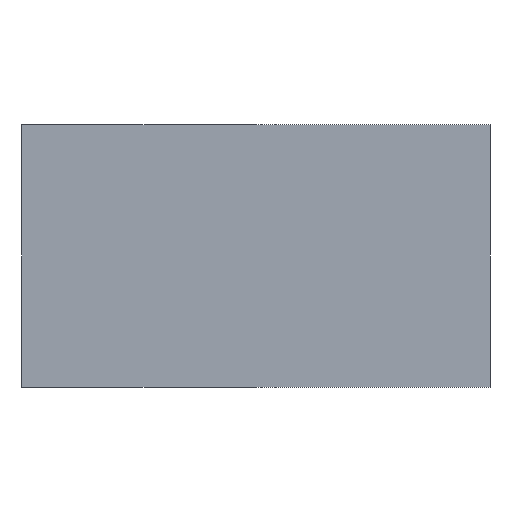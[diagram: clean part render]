
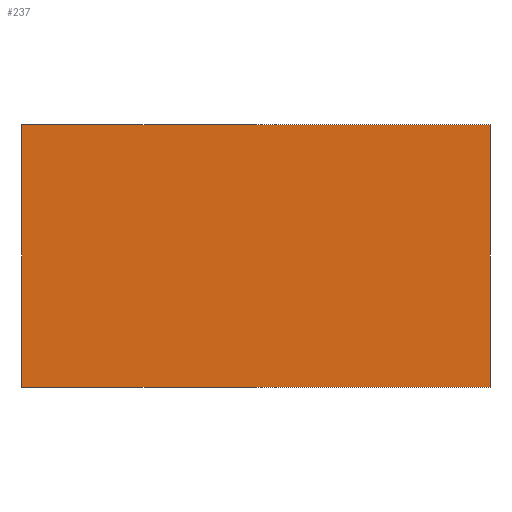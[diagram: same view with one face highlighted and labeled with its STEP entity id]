
A CAD part, front view. The second image highlights one B-rep face of the part: STEP entity #237.
In plain terms, the highlighted planar face has unit normal (0, -1, 0).
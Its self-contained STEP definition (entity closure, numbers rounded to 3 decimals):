
#21 = EDGE_CURVE('',#22,#24,#26,.T.);
#22 = VERTEX_POINT('',#23);
#23 = CARTESIAN_POINT('',(7.5,-42.72,0.075));
#24 = VERTEX_POINT('',#25);
#25 = CARTESIAN_POINT('',(7.5,-42.72,2.875));
#26 = SURFACE_CURVE('',#27,(#31,#43),.PCURVE_S1.);
#27 = LINE('',#28,#29);
#28 = CARTESIAN_POINT('',(7.5,-42.72,0.075));
#29 = VECTOR('',#30,1.);
#30 = DIRECTION('',(0.,0.,1.));
#31 = PCURVE('',#32,#37);
#32 = PLANE('',#33);
#33 = AXIS2_PLACEMENT_3D('',#34,#35,#36);
#34 = CARTESIAN_POINT('',(7.5,-42.72,0.075));
#35 = DIRECTION('',(1.,0.,0.));
#36 = DIRECTION('',(0.,0.,1.));
#37 = DEFINITIONAL_REPRESENTATION('',(#38),#42);
#38 = LINE('',#39,#40);
#39 = CARTESIAN_POINT('',(0.,0.));
#40 = VECTOR('',#41,1.);
#41 = DIRECTION('',(1.,0.));
#42 = ( GEOMETRIC_REPRESENTATION_CONTEXT(2) 
PARAMETRIC_REPRESENTATION_CONTEXT() REPRESENTATION_CONTEXT('2D SPACE',''
  ) );
#43 = PCURVE('',#44,#49);
#44 = PLANE('',#45);
#45 = AXIS2_PLACEMENT_3D('',#46,#47,#48);
#46 = CARTESIAN_POINT('',(7.5,-42.72,0.075));
#47 = DIRECTION('',(0.,1.,0.));
#48 = DIRECTION('',(0.,0.,1.));
#49 = DEFINITIONAL_REPRESENTATION('',(#50),#54);
#50 = LINE('',#51,#52);
#51 = CARTESIAN_POINT('',(0.,0.));
#52 = VECTOR('',#53,1.);
#53 = DIRECTION('',(1.,0.));
#54 = ( GEOMETRIC_REPRESENTATION_CONTEXT(2) 
PARAMETRIC_REPRESENTATION_CONTEXT() REPRESENTATION_CONTEXT('2D SPACE',''
  ) );
#72 = PLANE('',#73);
#73 = AXIS2_PLACEMENT_3D('',#74,#75,#76);
#74 = CARTESIAN_POINT('',(7.5,-42.72,0.075));
#75 = DIRECTION('',(0.,0.,1.));
#76 = DIRECTION('',(1.,0.,0.));
#126 = PLANE('',#127);
#127 = AXIS2_PLACEMENT_3D('',#128,#129,#130);
#128 = CARTESIAN_POINT('',(7.5,-42.72,2.875));
#129 = DIRECTION('',(0.,0.,1.));
#130 = DIRECTION('',(1.,0.,0.));
#141 = EDGE_CURVE('',#142,#144,#146,.T.);
#142 = VERTEX_POINT('',#143);
#143 = CARTESIAN_POINT('',(12.5,-42.72,0.075));
#144 = VERTEX_POINT('',#145);
#145 = CARTESIAN_POINT('',(12.5,-42.72,2.875));
#146 = SURFACE_CURVE('',#147,(#151,#163),.PCURVE_S1.);
#147 = LINE('',#148,#149);
#148 = CARTESIAN_POINT('',(12.5,-42.72,0.075));
#149 = VECTOR('',#150,1.);
#150 = DIRECTION('',(0.,0.,1.));
#151 = PCURVE('',#152,#157);
#152 = PLANE('',#153);
#153 = AXIS2_PLACEMENT_3D('',#154,#155,#156);
#154 = CARTESIAN_POINT('',(12.5,-42.72,0.075));
#155 = DIRECTION('',(1.,0.,0.));
#156 = DIRECTION('',(0.,0.,1.));
#157 = DEFINITIONAL_REPRESENTATION('',(#158),#162);
#158 = LINE('',#159,#160);
#159 = CARTESIAN_POINT('',(0.,0.));
#160 = VECTOR('',#161,1.);
#161 = DIRECTION('',(1.,0.));
#162 = ( GEOMETRIC_REPRESENTATION_CONTEXT(2) 
PARAMETRIC_REPRESENTATION_CONTEXT() REPRESENTATION_CONTEXT('2D SPACE',''
  ) );
#163 = PCURVE('',#44,#164);
#164 = DEFINITIONAL_REPRESENTATION('',(#165),#169);
#165 = LINE('',#166,#167);
#166 = CARTESIAN_POINT('',(0.,5.));
#167 = VECTOR('',#168,1.);
#168 = DIRECTION('',(1.,0.));
#169 = ( GEOMETRIC_REPRESENTATION_CONTEXT(2) 
PARAMETRIC_REPRESENTATION_CONTEXT() REPRESENTATION_CONTEXT('2D SPACE',''
  ) );
#237 = ADVANCED_FACE('',(#238),#44,.F.);
#238 = FACE_BOUND('',#239,.F.);
#239 = EDGE_LOOP('',(#240,#261,#262,#283));
#240 = ORIENTED_EDGE('',*,*,#241,.F.);
#241 = EDGE_CURVE('',#22,#142,#242,.T.);
#242 = SURFACE_CURVE('',#243,(#247,#254),.PCURVE_S1.);
#243 = LINE('',#244,#245);
#244 = CARTESIAN_POINT('',(7.5,-42.72,0.075));
#245 = VECTOR('',#246,1.);
#246 = DIRECTION('',(1.,0.,0.));
#247 = PCURVE('',#44,#248);
#248 = DEFINITIONAL_REPRESENTATION('',(#249),#253);
#249 = LINE('',#250,#251);
#250 = CARTESIAN_POINT('',(0.,0.));
#251 = VECTOR('',#252,1.);
#252 = DIRECTION('',(0.,1.));
#253 = ( GEOMETRIC_REPRESENTATION_CONTEXT(2) 
PARAMETRIC_REPRESENTATION_CONTEXT() REPRESENTATION_CONTEXT('2D SPACE',''
  ) );
#254 = PCURVE('',#72,#255);
#255 = DEFINITIONAL_REPRESENTATION('',(#256),#260);
#256 = LINE('',#257,#258);
#257 = CARTESIAN_POINT('',(0.,0.));
#258 = VECTOR('',#259,1.);
#259 = DIRECTION('',(1.,0.));
#260 = ( GEOMETRIC_REPRESENTATION_CONTEXT(2) 
PARAMETRIC_REPRESENTATION_CONTEXT() REPRESENTATION_CONTEXT('2D SPACE',''
  ) );
#261 = ORIENTED_EDGE('',*,*,#21,.T.);
#262 = ORIENTED_EDGE('',*,*,#263,.T.);
#263 = EDGE_CURVE('',#24,#144,#264,.T.);
#264 = SURFACE_CURVE('',#265,(#269,#276),.PCURVE_S1.);
#265 = LINE('',#266,#267);
#266 = CARTESIAN_POINT('',(7.5,-42.72,2.875));
#267 = VECTOR('',#268,1.);
#268 = DIRECTION('',(1.,0.,0.));
#269 = PCURVE('',#44,#270);
#270 = DEFINITIONAL_REPRESENTATION('',(#271),#275);
#271 = LINE('',#272,#273);
#272 = CARTESIAN_POINT('',(2.8,0.));
#273 = VECTOR('',#274,1.);
#274 = DIRECTION('',(0.,1.));
#275 = ( GEOMETRIC_REPRESENTATION_CONTEXT(2) 
PARAMETRIC_REPRESENTATION_CONTEXT() REPRESENTATION_CONTEXT('2D SPACE',''
  ) );
#276 = PCURVE('',#126,#277);
#277 = DEFINITIONAL_REPRESENTATION('',(#278),#282);
#278 = LINE('',#279,#280);
#279 = CARTESIAN_POINT('',(0.,0.));
#280 = VECTOR('',#281,1.);
#281 = DIRECTION('',(1.,0.));
#282 = ( GEOMETRIC_REPRESENTATION_CONTEXT(2) 
PARAMETRIC_REPRESENTATION_CONTEXT() REPRESENTATION_CONTEXT('2D SPACE',''
  ) );
#283 = ORIENTED_EDGE('',*,*,#141,.F.);
